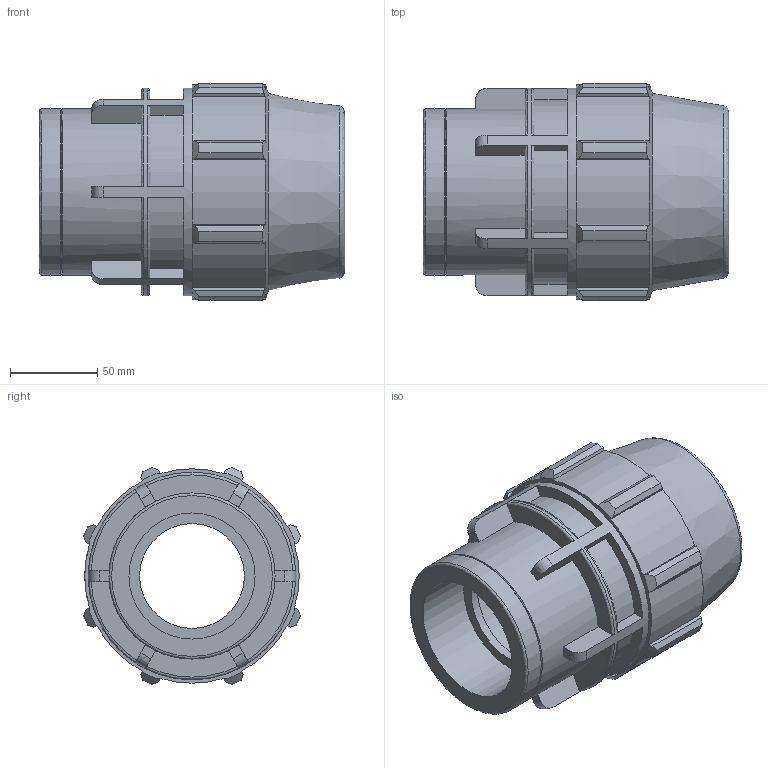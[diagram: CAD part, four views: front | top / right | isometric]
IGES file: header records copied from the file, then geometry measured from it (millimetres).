
Global section: file name: 870300075025_180300075025_840306075025.ipt; native system: Autodesk Inventor 2015; preprocessor: unknown; author: KIM; date: 20180325.201156; units: millimetre
Bounding box: 175 x 124.2 x 124.2 mm (x, y, z)
Volume: 852004.6 mm3; surface area: 127190.2 mm2
Topology: 1 solids, 1 shells, 148 faces, 413 edges, 277 vertices
Faces by surface type: plane 86, revolution 25, cylinder 25, cone 12
Full cylindrical faces by diameter (mm): 95.04 x2, 118.8 x1
